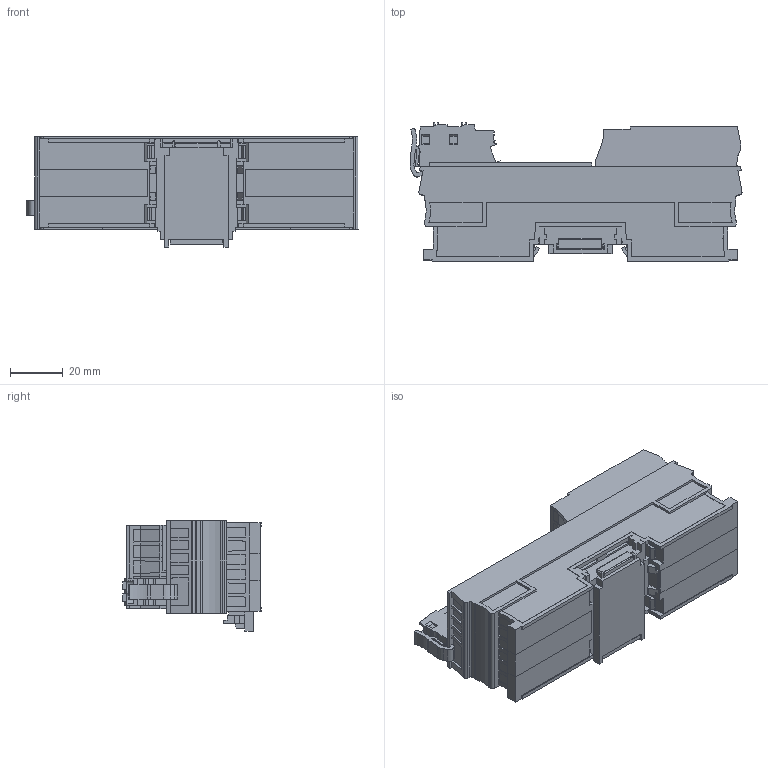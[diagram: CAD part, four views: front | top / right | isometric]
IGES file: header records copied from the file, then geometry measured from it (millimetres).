
Start section:  PTC IGES file: cu_rem-11190.igs
Global section: file name: cu_rem-11190.igs; native system: Creo Parametric by PTC Inc.; preprocessor: 2015380; author: dkendric; organization: Unknown; date: 20170511.140631; units: inch
Bounding box: 125.78 x 52.4 x 41.8 mm (x, y, z)
Surface area: 31259.9 mm2 (no closed solid volume)
Topology: 0 solids, 0 shells, 1047 faces, 6102 edges, 6102 vertices
Faces by surface type: bspline 889, revolution 158
